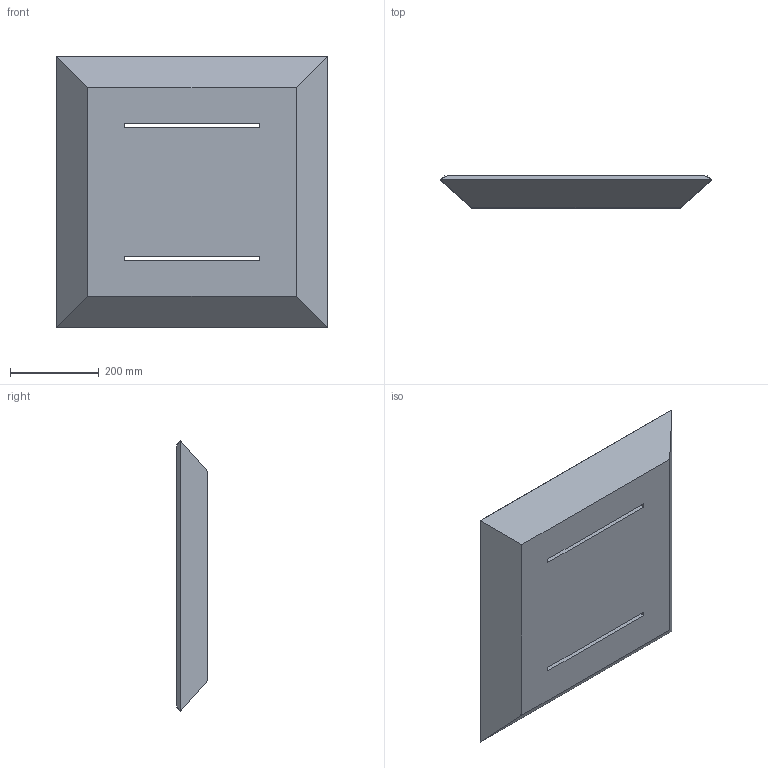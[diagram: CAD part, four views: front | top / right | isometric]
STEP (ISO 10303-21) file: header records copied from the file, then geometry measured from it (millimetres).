
FILE_DESCRIPTION (( 'STEP AP214' ), '1' );
FILE_NAME ('Lineal Logical - Dual - 3 In Deep Assembly - V5.STEP', '2022-08-02T15:24:45', ( '' ), ( '' ), 'SwSTEP 2.0', 'SolidWorks 2020', '' );
FILE_SCHEMA (( 'AUTOMOTIVE_DESIGN' ));
Length unit declared in the file: inch
Products named in the file (3): Lineal Logical - Dual - 3 In Deep Assembly - V5; 3 In Deep Extruded Tile Side - V5; Lineal Logical - Dual - 3 In Deep Top - V5
Assembly tree (5 placements, depth 2):
  Lineal Logical - Dual - 3 In Deep Assembly - V5
    Lineal Logical - Dual - 3 In Deep Top - V5
    3 In Deep Extruded Tile Side - V5  x4
Bounding box: 609.6 x 71.4 x 609.6 mm (x, y, z)
Volume: 4698525.9 mm3; surface area: 901090.9 mm2
Topology: 5 solids, 5 shells, 38 faces, 84 edges, 56 vertices
Faces by surface type: plane 38
Entity records: 728 total; most frequent: CARTESIAN_POINT 108, DIRECTION 104, ORIENTED_EDGE 96, VECTOR 48, LINE 48, EDGE_CURVE 48, VERTEX_POINT 32, AXIS2_PLACEMENT_3D 28
